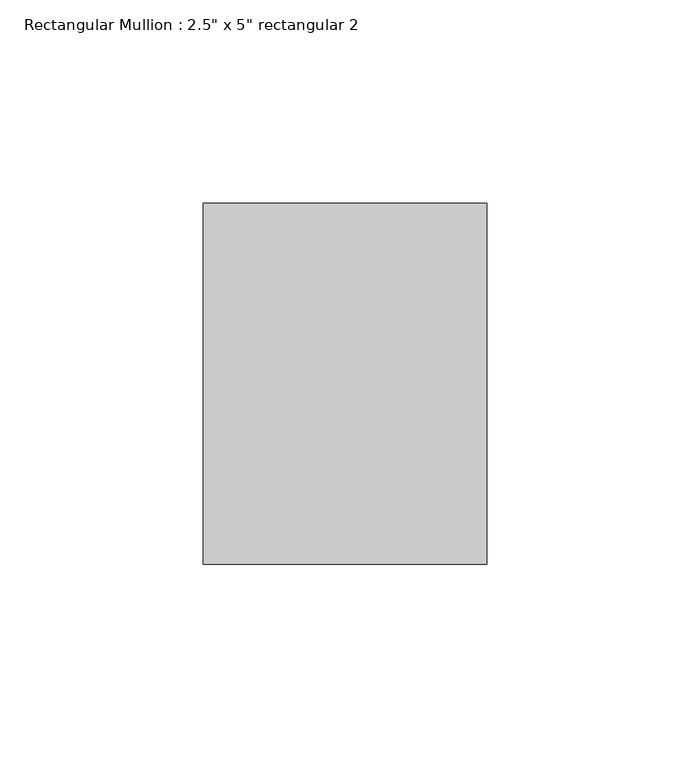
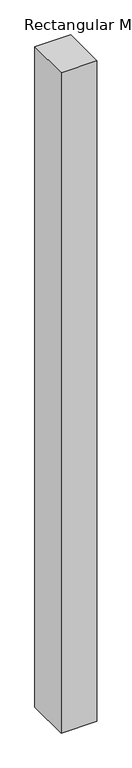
"""IFC4 building model written with IfcOpenShell, lengths in millimetres: member geometry."""

import ifcopenshell
import ifcopenshell.guid

model = None  # the IFC model being written
_history = None  # IfcOwnerHistory: only IFC2X3 demands one
_inside = {}  # id of a spatial element -> (the spatial element, [elements in it])
_under = {}  # id of a project, library or spatial element -> (it, [spatial elements below it])
_declared = {}  # id of a project -> (the project, [libraries it declares])
_typed = {}  # id of a type object -> (the type object, [elements of that type])
_made_of = {}  # id of a material, layer set ... -> (it, [elements and type objects made of it])


def new_model(schema):
    """Start an empty IFC model of exactly this schema.

    Asked for "IFC4X3", IfcOpenShell would pick the latest addendum, in which some entities
    have other attributes; the version numbers below select the first issue.
    IFC2X3 requires an IfcOwnerHistory on every rooted entity: one is made here for all.
    """
    global model, _history
    if schema == "IFC4X3":
        model = ifcopenshell.file(schema_version=(4, 3, 0, 0))
    else:
        model = ifcopenshell.file(schema=schema)
    _inside.clear()
    _under.clear()
    _declared.clear()
    _typed.clear()
    _made_of.clear()
    _history = None
    if model.schema == "IFC2X3":
        org = make("IfcOrganization", Name="unknown")
        user = make(
            "IfcPersonAndOrganization",
            ThePerson=make("IfcPerson", FamilyName="unknown"),
            TheOrganization=org,
        )
        app = make(
            "IfcApplication",
            ApplicationDeveloper=org,
            Version="unknown",
            ApplicationFullName="unknown",
            ApplicationIdentifier="unknown",
        )
        _history = make(
            "IfcOwnerHistory",
            OwningUser=user,
            OwningApplication=app,
            ChangeAction="ADDED",
            CreationDate=0,
        )
    return model


def make(cls, **values):
    """One entity of the class cls with the attributes given. An attribute that is None is left unset."""
    return model.create_entity(
        cls, **{name: value for name, value in values.items() if value is not None}
    )


def rooted(cls, **values):
    """An entity with a GlobalId (a new one), such as an element, a storey or a relation."""
    return make(cls, GlobalId=ifcopenshell.guid.new(), OwnerHistory=_history, **values)


def si_unit(unit_type, name, prefix=None):
    """IfcSIUnit, for example si_unit("LENGTHUNIT", "METRE", prefix="MILLI")."""
    return make("IfcSIUnit", UnitType=unit_type, Prefix=prefix, Name=name)


def assignment(units):
    """IfcUnitAssignment: the units of a project."""
    return None if units is None else make("IfcUnitAssignment", Units=units)


def point(xyz):
    """IfcCartesianPoint."""
    return None if xyz is None else make("IfcCartesianPoint", Coordinates=xyz)


def direction(xyz):
    """IfcDirection."""
    return None if xyz is None else make("IfcDirection", DirectionRatios=xyz)


def frame(location, z_axis=None, x_axis=None):
    """IfcAxis2Placement3D, a coordinate frame: its origin and axes. An axis left out is left unset."""
    return make(
        "IfcAxis2Placement3D",
        Location=point(location),
        Axis=direction(z_axis),
        RefDirection=direction(x_axis),
    )


def origin():
    """The frame at (0, 0, 0) with its axes left unset."""
    return frame((0.0, 0.0, 0.0))


def place(relative_to, where):
    """IfcLocalPlacement: puts the frame where relative to a parent placement (None: the world)."""
    return make(
        "IfcLocalPlacement", PlacementRelTo=relative_to, RelativePlacement=where
    )


def context(
    kind, dimensions, precision=None, world=None, true_north=None, identifier=None
):
    """IfcGeometricRepresentationContext, for example the 3D "Model" context."""
    return make(
        "IfcGeometricRepresentationContext",
        ContextIdentifier=identifier,
        ContextType=kind,
        CoordinateSpaceDimension=dimensions,
        Precision=precision,
        WorldCoordinateSystem=world,
        TrueNorth=true_north,
    )


def project(units=None, contexts=None):
    """IfcProject with its units and contexts."""
    return rooted(
        "IfcProject",
        Name="project",
        RepresentationContexts=contexts,
        UnitsInContext=assignment(units),
    )


def spatial(cls, under=None, at=None, **own):
    """A site, building, storey or space (cls), placed at a placement, below another one or the project."""
    s = rooted(cls, ObjectPlacement=at, **own)
    if under is not None:
        _under.setdefault(under.id(), (under, []))[1].append(s)
    return s


def polyline(points):
    """IfcPolyline through the points."""
    return make("IfcPolyline", Points=[point(p) for p in points])


def outline(outer, holes=None, kind="AREA"):
    """IfcArbitraryClosedProfileDef: a profile drawn as a closed curve; with holes, ...WithVoids."""
    if holes is None:
        return make("IfcArbitraryClosedProfileDef", ProfileType=kind, OuterCurve=outer)
    return make(
        "IfcArbitraryProfileDefWithVoids",
        ProfileType=kind,
        OuterCurve=outer,
        InnerCurves=holes,
    )


def extrude(swept, where, along, depth):
    """IfcExtrudedAreaSolid: the profile swept, set in the frame where, extruded along a direction by depth."""
    return make(
        "IfcExtrudedAreaSolid",
        SweptArea=swept,
        Position=where,
        ExtrudedDirection=direction(along),
        Depth=depth,
    )


def shape(context_of_items, identifier, shape_type, items):
    """IfcShapeRepresentation: the items that make up one representation, for example the "Body"."""
    return make(
        "IfcShapeRepresentation",
        ContextOfItems=context_of_items,
        RepresentationIdentifier=identifier,
        RepresentationType=shape_type,
        Items=items,
    )


def source(mapping_origin, context_of_items, identifier, shape_type, items):
    """IfcRepresentationMap: a shape defined once, which mapped items show again and again."""
    return make(
        "IfcRepresentationMap",
        MappingOrigin=mapping_origin,
        MappedRepresentation=shape(context_of_items, identifier, shape_type, items),
    )


def transform(
    local_origin,
    x_axis=None,
    y_axis=None,
    z_axis=None,
    scale=None,
    scale2=None,
    scale3=None,
    uniform=True,
):
    """IfcCartesianTransformationOperator3D, or its non-uniform kind. x_axis, y_axis, z_axis: its Axis1, 2, 3."""
    if uniform:
        return make(
            "IfcCartesianTransformationOperator3D",
            Axis1=direction(x_axis),
            Axis2=direction(y_axis),
            LocalOrigin=point(local_origin),
            Scale=scale,
            Axis3=direction(z_axis),
        )
    return make(
        "IfcCartesianTransformationOperator3DnonUniform",
        Axis1=direction(x_axis),
        Axis2=direction(y_axis),
        LocalOrigin=point(local_origin),
        Scale=scale,
        Axis3=direction(z_axis),
        Scale2=scale2,
        Scale3=scale3,
    )


def mapped(mapping_source, mapping_target):
    """IfcMappedItem: shows the shape of a source again, moved by a transform."""
    return make(
        "IfcMappedItem", MappingSource=mapping_source, MappingTarget=mapping_target
    )


def made_of(thing, what):
    """Note that an element or type object is made of a material, layer set ...; save() writes the relation."""
    if what is not None:
        _made_of.setdefault(what.id(), (what, []))[1].append(thing)
    return thing


def element(
    cls,
    number,
    at=None,
    inside=None,
    cuts=None,
    type_object=None,
    material=None,
    context=None,
    identifier="Body",
    shape_type=None,
    held_by="IfcProductDefinitionShape",
    body=None,
    shapes=None,
    **own,
):
    """One element of the class cls, such as IfcWall. Its Tag is "e" and its number.

    at: its placement. inside: the storey or other place that contains it. cuts: it is an
    opening in that element (IfcRelVoidsElement). A single representation is given by context,
    identifier, shape_type and body (its items); several are given by shapes. held_by: the class
    of the entity that holds the representations. save() writes the other relations.
    """
    e = rooted(cls, Tag="e%d" % number, ObjectPlacement=at, **own)
    if body is not None:
        shapes = [shape(context, identifier, shape_type, body)]
    if shapes is not None:
        e.Representation = make(held_by, Representations=shapes)
    if inside is not None:
        _inside.setdefault(inside.id(), (inside, []))[1].append(e)
    if cuts is not None:
        rooted(
            "IfcRelVoidsElement", RelatingBuildingElement=cuts, RelatedOpeningElement=e
        )
    if type_object is not None:
        _typed.setdefault(type_object.id(), (type_object, []))[1].append(e)
    return made_of(e, material)


def aggregate(whole, parts):
    """IfcRelAggregates: a whole, such as a stair, and the parts it consists of."""
    return rooted("IfcRelAggregates", RelatingObject=whole, RelatedObjects=parts)


def save(model, path):
    """Write the relations noted so far, then the file.

    IfcRelAggregates (storeys below a building ...), IfcRelContainedInSpatialStructure (elements
    in a storey), IfcRelDefinesByType, IfcRelAssociatesMaterial and IfcRelDeclares: one each for
    every whole, place, type object, material and project.
    """
    for whole, parts in _under.values():
        aggregate(whole, parts)
    for where, things in _inside.values():
        rooted(
            "IfcRelContainedInSpatialStructure",
            RelatedElements=things,
            RelatingStructure=where,
        )
    for kind, things in _typed.values():
        rooted("IfcRelDefinesByType", RelatedObjects=things, RelatingType=kind)
    for what, things in _made_of.values():
        rooted("IfcRelAssociatesMaterial", RelatedObjects=things, RelatingMaterial=what)
    for by, libraries in _declared.values():
        rooted("IfcRelDeclares", RelatingContext=by, RelatedDefinitions=libraries)
    model.write(path)


def member_1d54d513(model_context):
    return source(origin(), model_context, "Body", "SweptSolid", [
        extrude(outline(polyline([(0.0, 44.45), (0.0, -44.45), (-69.85, -44.45), (-69.85, 44.45), (0.0, 44.45)])), frame((0.0, 0.0, -1366.0800169), z_axis=(0.0, 0.0, 1.0), x_axis=(1.0, 0.0, 0.0)), (0.0, 0.0, 1.0), 1366.0800169),
    ])


if __name__ == "__main__":
    model = new_model("IFC4")
    model_context = context("Model", 3, world=origin())
    ifc_project = project(units=[si_unit("LENGTHUNIT", "METRE", prefix="MILLI")], contexts=[model_context])
    site = spatial("IfcSite", under=ifc_project)
    building = spatial("IfcBuilding", under=site)
    placement = place(None, origin())
    member_shape = member_1d54d513(model_context)
    element("IfcMember", 1, ObjectType="Rectangular Mullion : 2.5\" x 5\" rectangular 2", at=placement, inside=building, context=model_context, shape_type="MappedRepresentation", body=[
        mapped(member_shape, transform((0.0, 0.0, 0.0), x_axis=(1.0, 0.0, 0.0), y_axis=(0.0, 1.0, 0.0), z_axis=(0.0, 0.0, 1.0))),
    ])
    save(model, "model.ifc")
